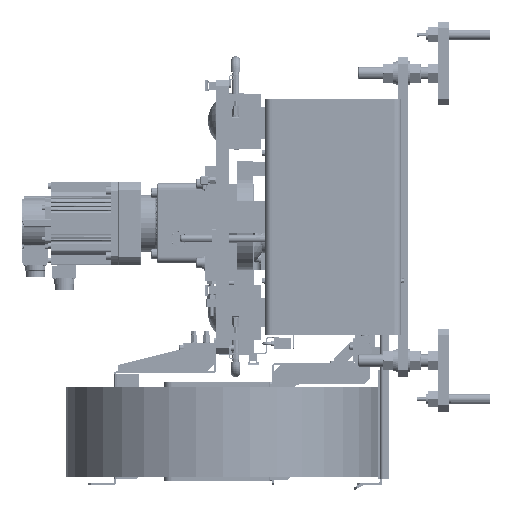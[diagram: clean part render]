
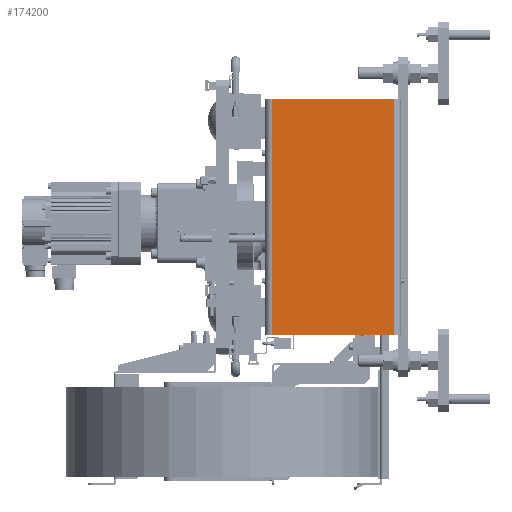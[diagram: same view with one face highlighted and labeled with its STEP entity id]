
A CAD part, left-side view. The second image highlights one B-rep face of the part: STEP entity #174200.
In plain terms, the highlighted planar face has unit normal (-1, 0, 0).
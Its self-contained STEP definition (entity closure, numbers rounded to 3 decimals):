
#1526 = LINE ( 'NONE', #196864, #178698 ) ;
#2060 = CARTESIAN_POINT ( 'NONE',  ( -63., 202.2, 185. ) ) ;
#5243 = CARTESIAN_POINT ( 'NONE',  ( -63., 10.8, 185. ) ) ;
#8863 = VERTEX_POINT ( 'NONE', #98232 ) ;
#16984 = DIRECTION ( 'NONE',  ( 0., 0., -1. ) ) ;
#23856 = EDGE_CURVE ( 'NONE', #116085, #129610, #1526, .T. ) ;
#24800 = VERTEX_POINT ( 'NONE', #49435 ) ;
#31592 = EDGE_LOOP ( 'NONE', ( #158999, #99717, #47671, #196718 ) ) ;
#37238 = VECTOR ( 'NONE', #16984, 1000. ) ;
#45294 = VECTOR ( 'NONE', #105072, 1000. ) ;
#47176 = EDGE_CURVE ( 'NONE', #8863, #116085, #115692, .T. ) ;
#47671 = ORIENTED_EDGE ( 'NONE', *, *, #178180, .F. ) ;
#49435 = CARTESIAN_POINT ( 'NONE',  ( -63., 10.8, 185. ) ) ;
#74048 = DIRECTION ( 'NONE',  ( 1., 0., 0. ) ) ;
#76348 = CARTESIAN_POINT ( 'NONE',  ( -63., 10.8, 185. ) ) ;
#83369 = DIRECTION ( 'NONE',  ( 0., -1., 0. ) ) ;
#98232 = CARTESIAN_POINT ( 'NONE',  ( -63., 202.2, 185. ) ) ;
#99717 = ORIENTED_EDGE ( 'NONE', *, *, #107471, .F. ) ;
#103809 = CARTESIAN_POINT ( 'NONE',  ( -63., 10.8, 185. ) ) ;
#105072 = DIRECTION ( 'NONE',  ( 0., -1., 0. ) ) ;
#107471 = EDGE_CURVE ( 'NONE', #24800, #129610, #206750, .T. ) ;
#115692 = LINE ( 'NONE', #2060, #37238 ) ;
#116085 = VERTEX_POINT ( 'NONE', #208624 ) ;
#123802 = FACE_OUTER_BOUND ( 'NONE', #31592, .T. ) ;
#129610 = VERTEX_POINT ( 'NONE', #192489 ) ;
#135771 = LINE ( 'NONE', #5243, #45294 ) ;
#141789 = VECTOR ( 'NONE', #190922, 1000. ) ;
#153691 = PLANE ( 'NONE',  #167763 ) ;
#158999 = ORIENTED_EDGE ( 'NONE', *, *, #23856, .T. ) ;
#167763 = AXIS2_PLACEMENT_3D ( 'NONE', #103809, #74048, #205502 ) ;
#174200 = ADVANCED_FACE ( 'NONE', ( #123802 ), #153691, .F. ) ;
#178180 = EDGE_CURVE ( 'NONE', #8863, #24800, #135771, .T. ) ;
#178698 = VECTOR ( 'NONE', #83369, 1000. ) ;
#190922 = DIRECTION ( 'NONE',  ( 0., 0., -1. ) ) ;
#192489 = CARTESIAN_POINT ( 'NONE',  ( -63., 10.8, -185. ) ) ;
#196718 = ORIENTED_EDGE ( 'NONE', *, *, #47176, .T. ) ;
#196864 = CARTESIAN_POINT ( 'NONE',  ( -63., 10.8, -185. ) ) ;
#205502 = DIRECTION ( 'NONE',  ( 0., 1., 0. ) ) ;
#206750 = LINE ( 'NONE', #76348, #141789 ) ;
#208624 = CARTESIAN_POINT ( 'NONE',  ( -63., 202.2, -185. ) ) ;
